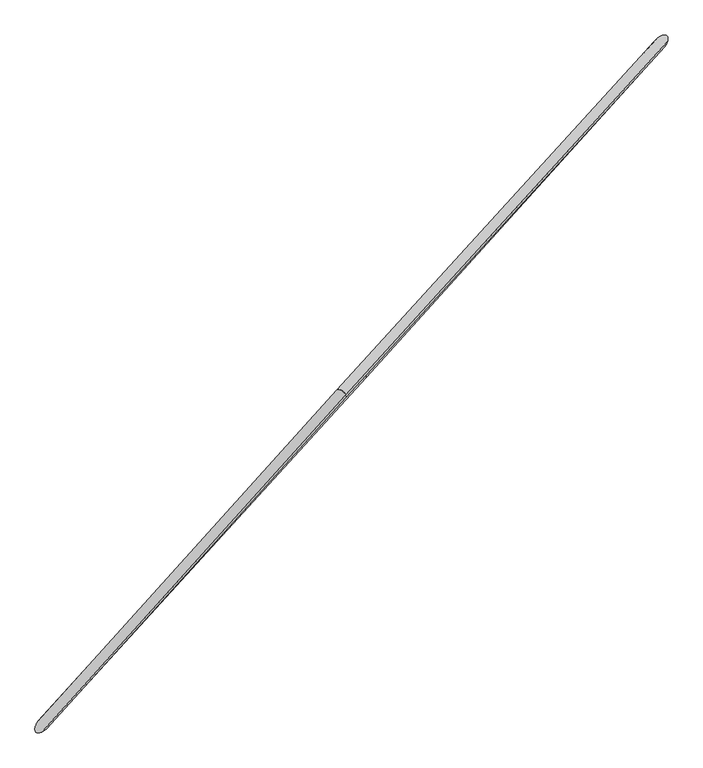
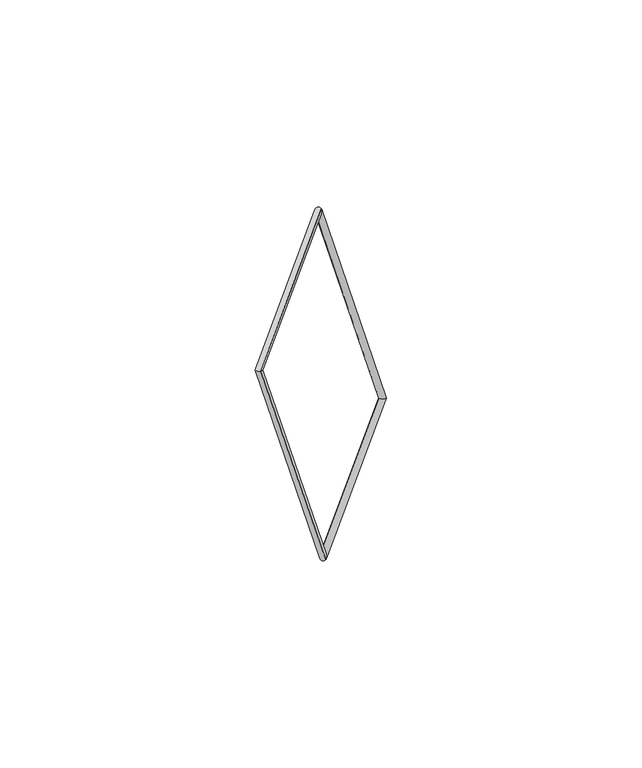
"""IFC4 building model written with IfcOpenShell, lengths in millimetres: proxy geometry, Família5 : Família5."""

from ifc_helpers import new_model, si_unit, frame, origin, place, context, project, spatial, ellipse_curve, source, transform, mapped, element, save
from ifc_brep_helpers import cylinder_surface, advanced_brep


def generic_models_92b674f7(model_context):
    return source(origin(), model_context, "Body", "AdvancedBrep", [
        advanced_brep(
        [(-1455.1596129, -1512.0614865, 27.1319807), (-1429.4456551, -1395.8943459, -27.1319807), (611.0046291, 863.1756116, -27.1319807), (673.6006388, 844.7802208, 27.1319807), (2812.8022732, 3282.6908938, -4738.9723103), (2925.9698465, 3319.867672, -4792.9313429), (772.351989, 1023.6209363, -4738.9723103), (797.2095948, 963.0259648, -4792.9313429)],
        [
            (0, 1, ellipse_curve(frame((-1442.302634, -1453.9779162, 0.0), z_axis=(0.30898667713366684, 0.34551297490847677, 0.886085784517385), x_axis=(-0.5948231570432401, -0.6567648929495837, 0.46351406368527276)), 86.2969848, 40.0)),
            (1, 2),
            (2, 3, ellipse_curve(frame((642.302634, 853.9779162, 0.0), z_axis=(-0.5948231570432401, -0.6567648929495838, 0.4635140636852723), x_axis=(-0.30898667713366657, -0.3455129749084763, -0.8860857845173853)), 45.142205, 40.0)),
            (3, 0),
            (1, 0, ellipse_curve(frame((-1442.302634, -1453.9779162, 0.0), z_axis=(0.30898667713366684, 0.34551297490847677, 0.886085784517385), x_axis=(-0.5948231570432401, -0.6567648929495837, 0.46351406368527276)), 86.2969848, 40.0)),
            (3, 2, ellipse_curve(frame((642.302634, 853.9779162, 0.0), z_axis=(-0.5948231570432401, -0.6567648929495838, 0.4635140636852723), x_axis=(-0.30898667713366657, -0.3455129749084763, -0.8860857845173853)), 45.142205, 40.0)),
            (2, 4),
            (4, 5, ellipse_curve(frame((2869.3860599, 3301.2792829, -4765.9518266), z_axis=(0.308986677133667, 0.34551297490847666, 0.8860857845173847), x_axis=(-0.59482315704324, -0.6567648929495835, 0.46351406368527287)), 86.2969848, 40.0)),
            (5, 3),
            (5, 4, ellipse_curve(frame((2869.3860599, 3301.2792829, -4765.9518266), z_axis=(0.308986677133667, 0.34551297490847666, 0.8860857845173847), x_axis=(-0.59482315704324, -0.6567648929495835, 0.46351406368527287)), 86.2969848, 40.0)),
            (4, 6),
            (6, 7, ellipse_curve(frame((784.7807919, 993.3234505, -4765.9518266), z_axis=(0.59482315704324, 0.6567648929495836, -0.46351406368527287), x_axis=(0.308986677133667, 0.3455129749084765, 0.8860857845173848)), 45.142205, 40.0)),
            (7, 5),
            (7, 6, ellipse_curve(frame((784.7807919, 993.3234505, -4765.9518266), z_axis=(0.59482315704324, 0.6567648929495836, -0.46351406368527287), x_axis=(0.308986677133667, 0.3455129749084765, 0.8860857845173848)), 45.142205, 40.0)),
            (6, 1),
            (0, 7),
        ],
        [
            cylinder_surface(frame((-1442.302634, -1453.9779162, 0.0), z_axis=(-0.6702862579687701, -0.7421026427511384, 0.0), x_axis=(-0.503367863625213, 0.4546548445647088, 0.7347855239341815)), 40.0),
            cylinder_surface(frame((642.302634, 853.9779162, 0.0), z_axis=(-0.3838459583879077, -0.42180132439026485, 0.8214291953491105), x_axis=(-0.09722624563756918, 0.9030899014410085, 0.41830095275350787)), 40.0),
            cylinder_surface(frame((2869.3860599, 3301.2792829, -4765.9518266), z_axis=(0.6702862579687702, 0.7421026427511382, 0.0), x_axis=(-0.5005392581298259, 0.4520999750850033, -0.7382858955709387)), 40.0),
            cylinder_surface(frame((784.7807919, 993.3234505, -4765.9518266), z_axis=(0.3838459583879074, 0.4218013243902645, -0.821429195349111), x_axis=(-0.9066808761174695, 0.0036649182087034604, -0.4218013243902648)), 40.0),
        ],
        [
            (0, [[1, 2, 3, 4]]),
            (0, [[5, -4, 6, -2]]),
            (1, [[-3, 7, 8, 9]]),
            (1, [[-6, -9, 10, -7]]),
            (2, [[-8, 11, 12, 13]]),
            (2, [[-10, -13, 14, -11]]),
            (3, [[-12, 15, -1, 16]]),
            (3, [[-14, -16, -5, -15]]),
        ],
    ),
    ])


if __name__ == "__main__":
    model = new_model("IFC4")
    model_context = context("Model", 3, world=origin())
    ifc_project = project(units=[si_unit("LENGTHUNIT", "METRE", prefix="MILLI")], contexts=[model_context])
    site = spatial("IfcSite", under=ifc_project)
    building = spatial("IfcBuilding", under=site)
    placement = place(None, origin())
    generic_models_shape = generic_models_92b674f7(model_context)
    element("IfcBuildingElementProxy", 1, Name="Família5 : Família5", ObjectType="Família5 : Família5", at=placement, inside=building, context=model_context, shape_type="MappedRepresentation", body=[
        mapped(generic_models_shape, transform((0.0, 0.0, 0.0), x_axis=(1.0, 0.0, 0.0), y_axis=(0.0, 1.0, 0.0), z_axis=(0.0, 0.0, 1.0))),
    ])
    save(model, "model.ifc")
